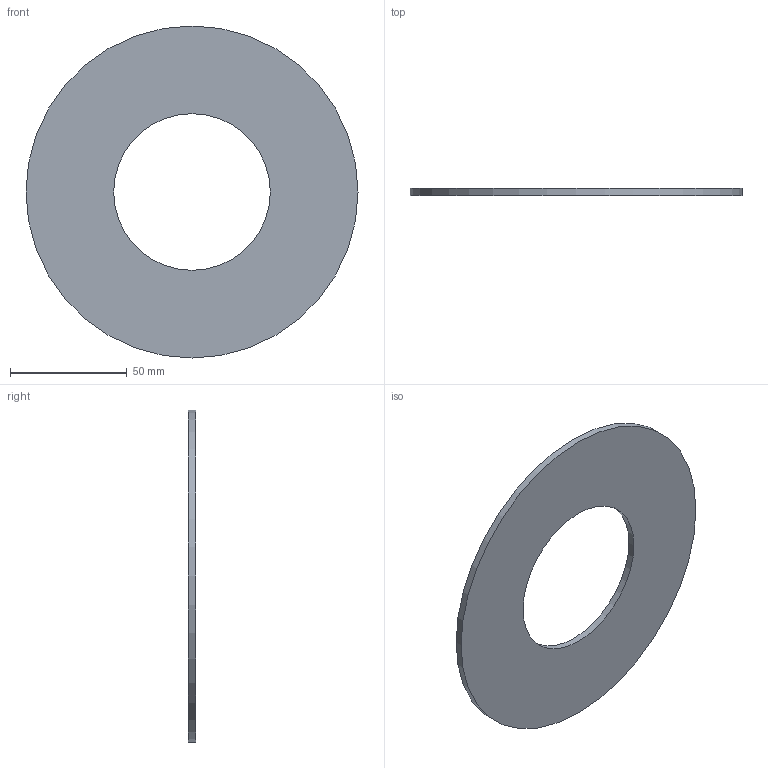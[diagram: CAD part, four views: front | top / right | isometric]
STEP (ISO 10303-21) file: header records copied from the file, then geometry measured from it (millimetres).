
FILE_DESCRIPTION(/* description */ ('Unknown'),/* implementation_level */ '2;1');
FILE_NAME(/* name */ 'GUA.090H',/* time_stamp */ '2021-04-01T15:02:17+02:00',/* author */ ('Unknown'),/* organization */ ('Unknown'),/* preprocessor_version */ 'ST-DEVELOPER v16.7',/* originating_system */ 'Solid Edge',/* authorisation */ 'Unknown');
FILE_SCHEMA (('AUTOMOTIVE_DESIGN {1 0 10303 214 3 1 1}'));
Length unit declared in the file: millimetre
Products named in the file (1): GUA.090H
Bounding box: 142 x 3 x 142 mm (x, y, z)
Volume: 36933.3 mm3; surface area: 26592 mm2
Topology: 1 solids, 1 shells, 4 faces, 6 edges, 4 vertices
Faces by surface type: cylinder 2, plane 2
Full cylindrical faces by diameter (mm): 67 x1, 142 x1
Entity records: 118 total; most frequent: DIRECTION 18, CARTESIAN_POINT 13, AXIS2_PLACEMENT_3D 9, ORIENTED_EDGE 8, EDGE_LOOP 8, FACE_BOUND 8, EDGE_CURVE 4, VERTEX_POINT 4
